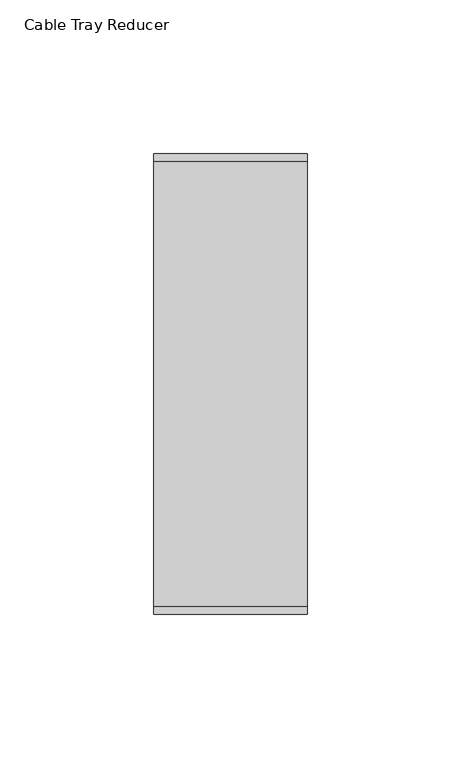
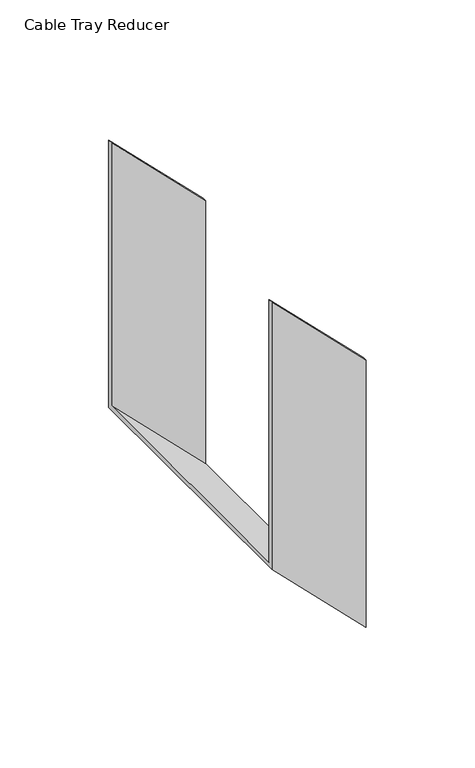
"""IFC4 building model written with IfcOpenShell, lengths in millimetres: cable carrier fitting geometry, Cable Tray Reducer : ELEC_ELV_TKG_N2402."""

from ifc_helpers import new_model, si_unit, origin, place, context, project, spatial, faceted_brep, source, transform, mapped, element, save


def cable_tray_reducer_d5418ca3(model_context):
    return source(origin(), model_context, "Body", "Brep", [
        faceted_brep([(50.0, -75.0001399, -125.0000095), (50.0, 74.9998601, -125.0000095), (50.0, 74.9998601, 24.9999905), (50.0, 72.4598601, 24.9999905), (50.0, 72.4598601, -122.4600095), (50.0, -72.4601399, -122.4600095), (50.0, -72.4601399, 24.9999905), (50.0, -75.0001399, 24.9999905), (0.0, -75.0, -75.0), (0.0, -75.0, 75.0), (0.0, -72.46, 75.0), (0.0, -72.46, -72.46), (0.0, 72.46, -72.46), (0.0, 72.46, 75.0), (0.0, 75.0, 75.0), (0.0, 75.0, -75.0)], [[[0, 1, 2, 3, 4, 5, 6, 7]], [[8, 9, 10, 11, 12, 13, 14, 15]], [[8, 15, 1, 0]], [[15, 14, 2, 1]], [[14, 13, 3, 2]], [[13, 12, 4, 3]], [[12, 11, 5, 4]], [[11, 10, 6, 5]], [[10, 9, 7, 6]], [[9, 8, 0, 7]]]),
    ])


if __name__ == "__main__":
    model = new_model("IFC4")
    model_context = context("Model", 3, world=origin())
    ifc_project = project(units=[si_unit("LENGTHUNIT", "METRE", prefix="MILLI")], contexts=[model_context])
    site = spatial("IfcSite", under=ifc_project)
    building = spatial("IfcBuilding", under=site)
    placement = place(None, origin())
    cable_tray_reducer_shape = cable_tray_reducer_d5418ca3(model_context)
    element("IfcCableCarrierFitting", 1, ObjectType="Cable Tray Reducer : ELEC_ELV_TKG_N2402", at=placement, inside=building, context=model_context, shape_type="MappedRepresentation", body=[
        mapped(cable_tray_reducer_shape, transform((0.0, 0.0, 0.0), x_axis=(1.0, 0.0, 0.0), y_axis=(0.0, 1.0, 0.0), z_axis=(0.0, 0.0, 1.0))),
    ])
    save(model, "model.ifc")
